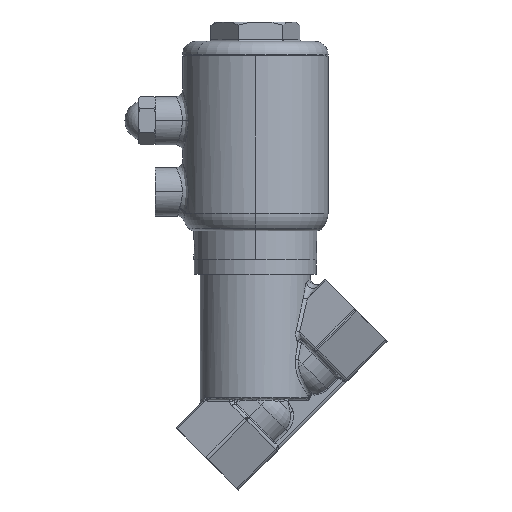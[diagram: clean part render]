
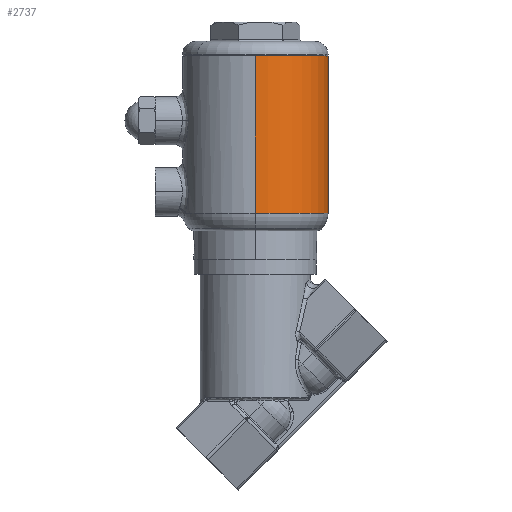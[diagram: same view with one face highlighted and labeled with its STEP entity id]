
A CAD part, top view. The second image highlights one B-rep face of the part: STEP entity #2737.
In plain terms, the highlighted cylindrical face has radius 22.5 mm (diameter 45 mm), a partial arc.
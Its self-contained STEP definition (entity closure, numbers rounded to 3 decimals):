
#172 = ORIENTED_EDGE ( 'NONE', *, *, #9131, .F. ) ;
#1207 = DIRECTION ( 'NONE',  ( 0., -1., 0. ) ) ;
#1461 = FACE_OUTER_BOUND ( 'NONE', #9780, .T. ) ;
#1714 = DIRECTION ( 'NONE',  ( 0., 0., -1. ) ) ;
#1773 = CYLINDRICAL_SURFACE ( 'NONE', #3446, 22.5 ) ;
#1884 = VECTOR ( 'NONE', #1207, 1000. ) ;
#1956 = CARTESIAN_POINT ( 'NONE',  ( 0., -10.787, 22.5 ) ) ;
#2267 = ORIENTED_EDGE ( 'NONE', *, *, #4625, .F. ) ;
#2737 = ADVANCED_FACE ( 'NONE', ( #1461 ), #1773, .T. ) ;
#3043 = VERTEX_POINT ( 'NONE', #4885 ) ;
#3446 = AXIS2_PLACEMENT_3D ( 'NONE', #4495, #4460, #1714 ) ;
#4293 = DIRECTION ( 'NONE',  ( 0., 1., 0. ) ) ;
#4460 = DIRECTION ( 'NONE',  ( 0., -1., 0. ) ) ;
#4495 = CARTESIAN_POINT ( 'NONE',  ( 0., 37.809, 0. ) ) ;
#4625 = EDGE_CURVE ( 'NONE', #3043, #8517, #8958, .T. ) ;
#4725 = VERTEX_POINT ( 'NONE', #11099 ) ;
#4885 = CARTESIAN_POINT ( 'NONE',  ( 0., -10.787, -22.5 ) ) ;
#5216 = CARTESIAN_POINT ( 'NONE',  ( 0., 37.809, -22.5 ) ) ;
#5399 = ORIENTED_EDGE ( 'NONE', *, *, #10108, .F. ) ;
#5462 = DIRECTION ( 'NONE',  ( 0., -1., 0. ) ) ;
#5570 = CARTESIAN_POINT ( 'NONE',  ( 0., 37.809, 22.5 ) ) ;
#6579 = AXIS2_PLACEMENT_3D ( 'NONE', #11060, #5462, #12026 ) ;
#8280 = AXIS2_PLACEMENT_3D ( 'NONE', #9917, #4293, #10876 ) ;
#8336 = LINE ( 'NONE', #9631, #1884 ) ;
#8447 = VECTOR ( 'NONE', #11916, 1000. ) ;
#8517 = VERTEX_POINT ( 'NONE', #1956 ) ;
#8607 = CIRCLE ( 'NONE', #8280, 22.5 ) ;
#8958 = CIRCLE ( 'NONE', #6579, 22.5 ) ;
#9131 = EDGE_CURVE ( 'NONE', #9296, #4725, #8607, .T. ) ;
#9296 = VERTEX_POINT ( 'NONE', #5570 ) ;
#9541 = EDGE_CURVE ( 'NONE', #9296, #8517, #8336, .T. ) ;
#9631 = CARTESIAN_POINT ( 'NONE',  ( 0., 37.809, 22.5 ) ) ;
#9780 = EDGE_LOOP ( 'NONE', ( #172, #10175, #2267, #5399 ) ) ;
#9917 = CARTESIAN_POINT ( 'NONE',  ( 0., 37.809, 0. ) ) ;
#10108 = EDGE_CURVE ( 'NONE', #4725, #3043, #10640, .T. ) ;
#10175 = ORIENTED_EDGE ( 'NONE', *, *, #9541, .T. ) ;
#10640 = LINE ( 'NONE', #5216, #8447 ) ;
#10876 = DIRECTION ( 'NONE',  ( 0., 0., 1. ) ) ;
#11060 = CARTESIAN_POINT ( 'NONE',  ( 0., -10.787, 0. ) ) ;
#11099 = CARTESIAN_POINT ( 'NONE',  ( 0., 37.809, -22.5 ) ) ;
#11916 = DIRECTION ( 'NONE',  ( 0., -1., 0. ) ) ;
#12026 = DIRECTION ( 'NONE',  ( 0., 0., 1. ) ) ;
